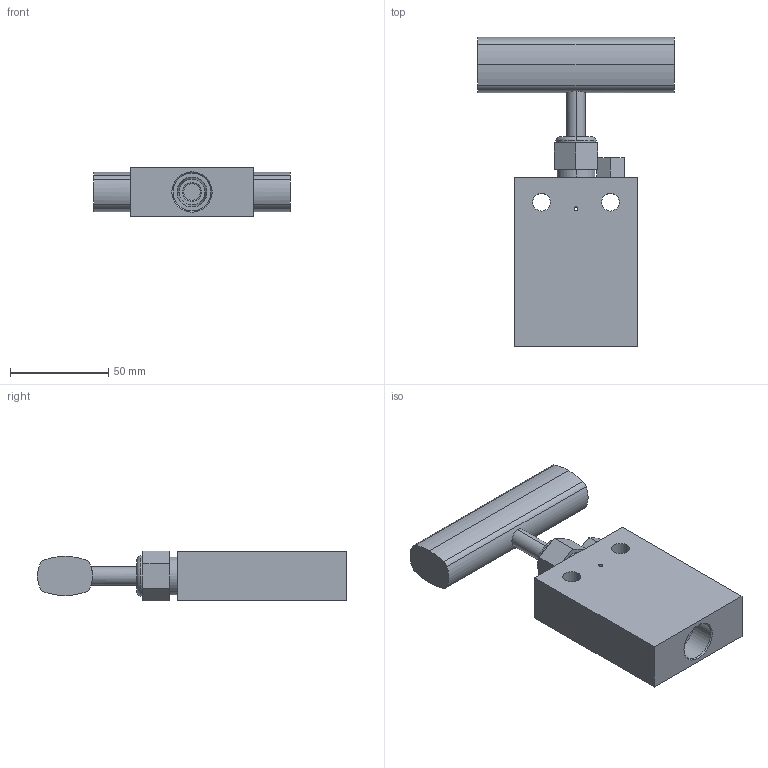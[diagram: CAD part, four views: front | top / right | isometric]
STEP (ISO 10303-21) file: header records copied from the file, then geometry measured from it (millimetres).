
FILE_DESCRIPTION (( 'STEP AP203' ), '1' );
FILE_NAME ('NV10VS08-A-00-00.STEP', '2023-02-23T04:42:55', ( 'USER' ), ( '' ), 'SwSTEP 2.0', 'SolidWorks 2020', '' );
FILE_SCHEMA (( 'CONFIG_CONTROL_DESIGN' ));
Length unit declared in the file: millimetre
Products named in the file (1): NV10VS08-A-00-00
Bounding box: 100 x 157.06 x 25.4 mm (x, y, z)
Volume: 177988.2 mm3; surface area: 34624.5 mm2
Topology: 1 solids, 1 shells, 87 faces, 208 edges, 132 vertices
Faces by surface type: cylinder 41, plane 30, cone 14, torus 2
Entity records: 2881 total; most frequent: CARTESIAN_POINT 698, DIRECTION 462, ORIENTED_EDGE 416, EDGE_CURVE 208, AXIS2_PLACEMENT_3D 176, VERTEX_POINT 132, VECTOR 110, LINE 110
